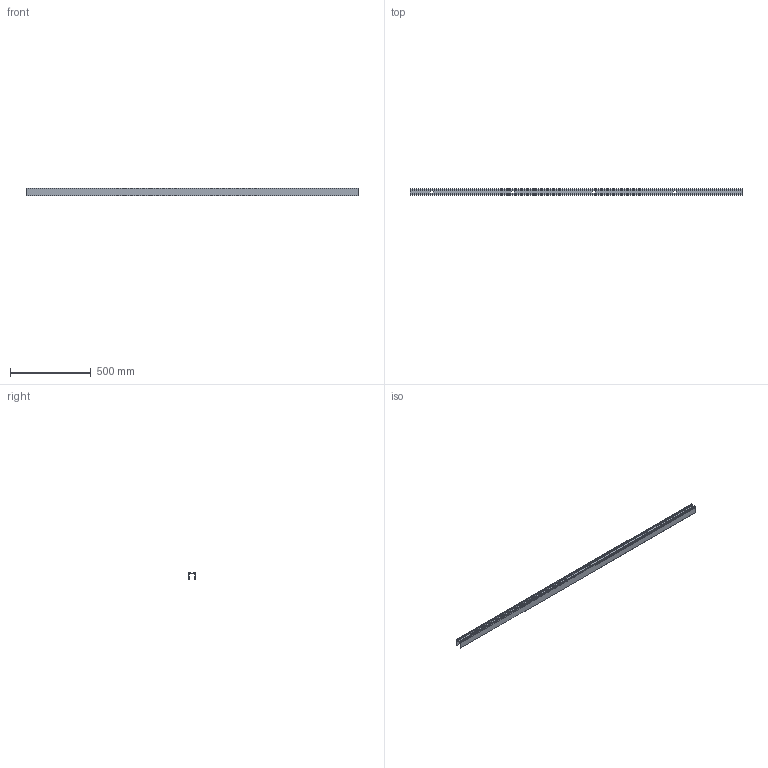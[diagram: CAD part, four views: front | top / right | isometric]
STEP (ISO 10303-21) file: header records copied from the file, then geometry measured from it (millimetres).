
FILE_DESCRIPTION(('STEP AP242'),'1');
FILE_NAME('OPO_65.081.81_volu_schn_3d.stp','2026-01-30T20:51:53',(' '),(' '),'Spatial InterOp 3D',' ',' ');
FILE_SCHEMA(('AP242_MANAGED_MODEL_BASED_3D_ENGINEERING_MIM_LF {1 0 10303 442 1 1 4}'));
Length unit declared in the file: millimetre
Products named in the file (1): 1
Bounding box: 2050 x 38 x 46.5 mm (x, y, z)
Volume: 639812 mm3; surface area: 577000 mm2
Topology: 1 solids, 1 shells, 76 faces, 381 edges, 468 vertices
Faces by surface type: plane 56, cylinder 20
Entity records: 5087 total; most frequent: CARTESIAN_POINT 605, DIRECTION 597, ORIENTED_EDGE 440, LINE 321, VECTOR 321, STYLED_ITEM 237, PRESENTATION_STYLE_ASSIGNMENT 237, COLOUR_RGB 237
